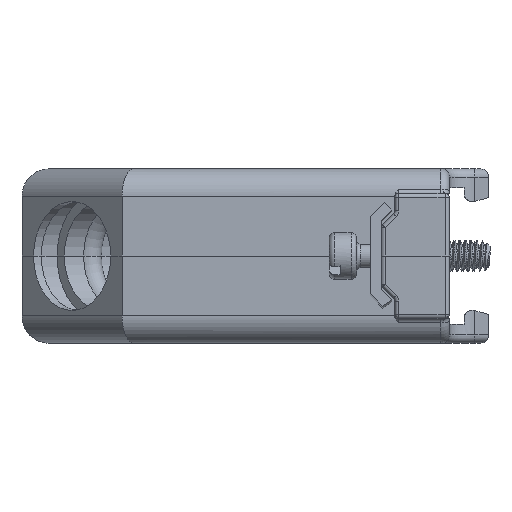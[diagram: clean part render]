
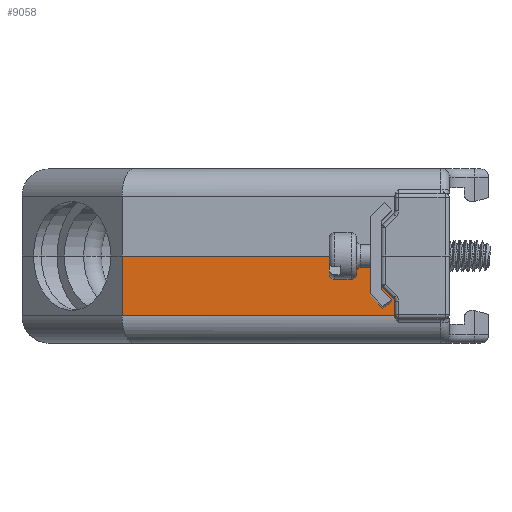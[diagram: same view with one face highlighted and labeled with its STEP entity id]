
A CAD part, left-side view. The second image highlights one B-rep face of the part: STEP entity #9058.
In plain terms, the highlighted planar face has unit normal (-1, 0, 0).
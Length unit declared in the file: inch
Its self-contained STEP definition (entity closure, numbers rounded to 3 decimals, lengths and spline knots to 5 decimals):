
#8087=CARTESIAN_POINT('',(-0.5525,-0.51153,-0.06));
#8088=VERTEX_POINT('',#8087);
#8102=CARTESIAN_POINT('',(-0.5525,0.4888,-0.06));
#8103=VERTEX_POINT('',#8102);
#8104=CARTESIAN_POINT('',(-0.5525,0.4888,-0.06));
#8105=DIRECTION('',(0.0,-1.0,0.0));
#8106=VECTOR('',#8105,1.00033);
#8107=LINE('',#8104,#8106);
#8108=EDGE_CURVE('',#8088,#8103,#8107,.F.);
#8600=CARTESIAN_POINT('',(-0.5525,-0.4615,0.05621));
#8601=VERTEX_POINT('',#8600);
#8602=CARTESIAN_POINT('',(-0.5525,-0.46589,0.04561));
#8603=VERTEX_POINT('',#8602);
#8604=CARTESIAN_POINT('',(-0.5525,-0.4765,0.05621));
#8605=DIRECTION('',(1.0,0.0,0.0));
#8606=DIRECTION('',(0.0,0.924,-0.383));
#8607=AXIS2_PLACEMENT_3D('',#8604,#8605,#8606);
#8608=CIRCLE('',#8607,0.015);
#8609=EDGE_CURVE('',#8601,#8603,#8608,.F.);
#8676=CARTESIAN_POINT('',(-0.5525,-0.5115,-0.00621));
#8677=VERTEX_POINT('',#8676);
#8678=CARTESIAN_POINT('',(-0.5525,-0.50711,0.00439));
#8679=VERTEX_POINT('',#8678);
#8680=CARTESIAN_POINT('',(-0.5525,-0.4965,-0.00621));
#8681=DIRECTION('',(-1.0,0.0,0.0));
#8682=DIRECTION('',(0.0,-0.924,0.383));
#8683=AXIS2_PLACEMENT_3D('',#8680,#8681,#8682);
#8684=CIRCLE('',#8683,0.015);
#8685=EDGE_CURVE('',#8677,#8679,#8684,.T.);
#8784=CARTESIAN_POINT('',(-0.5525,-0.5115,-0.05897));
#8785=VERTEX_POINT('',#8784);
#8793=CARTESIAN_POINT('',(-0.5525,-0.51153,-0.06));
#8794=CARTESIAN_POINT('',(-0.5525,-0.51151,-0.05965));
#8795=CARTESIAN_POINT('',(-0.5525,-0.5115,-0.0593));
#8796=CARTESIAN_POINT('',(-0.5525,-0.5115,-0.05897));
#8797=B_SPLINE_CURVE_WITH_KNOTS('',3,(#8793,#8794,#8795,#8796),.UNSPECIFIED.,.F.,.U.,(4,4),(0.18398,0.18653),.UNSPECIFIED.);
#8798=EDGE_CURVE('',#8088,#8785,#8797,.T.);
#9009=CARTESIAN_POINT('',(-0.5525,-0.5115,-0.05897));
#9010=DIRECTION('',(0.0,0.0,1.0));
#9011=VECTOR('',#9010,0.05276);
#9012=LINE('',#9009,#9011);
#9013=EDGE_CURVE('',#8785,#8677,#9012,.T.);
#9018=CARTESIAN_POINT('',(-0.5525,-0.7115,-0.16));
#9019=DIRECTION('',(-1.0,0.0,0.0));
#9020=DIRECTION('',(0.0,0.0,1.0));
#9021=AXIS2_PLACEMENT_3D('',#9018,#9019,#9020);
#9022=PLANE('',#9021);
#9023=ORIENTED_EDGE('',*,*,#8685,.T.);
#9024=CARTESIAN_POINT('',(-0.5525,-0.50711,0.00439));
#9025=DIRECTION('',(0.,0.707,0.707));
#9026=VECTOR('',#9025,0.05828);
#9027=LINE('',#9024,#9026);
#9028=EDGE_CURVE('',#8679,#8603,#9027,.T.);
#9029=ORIENTED_EDGE('',*,*,#9028,.T.);
#9030=ORIENTED_EDGE('',*,*,#8609,.F.);
#9031=CARTESIAN_POINT('',(-0.5525,-0.4615,0.16));
#9032=VERTEX_POINT('',#9031);
#9033=CARTESIAN_POINT('',(-0.5525,-0.4615,0.05621));
#9034=DIRECTION('',(0.0,0.0,1.0));
#9035=VECTOR('',#9034,0.10379);
#9036=LINE('',#9033,#9035);
#9037=EDGE_CURVE('',#8601,#9032,#9036,.T.);
#9038=ORIENTED_EDGE('',*,*,#9037,.T.);
#9039=CARTESIAN_POINT('',(-0.5525,0.4888,0.16));
#9040=VERTEX_POINT('',#9039);
#9041=CARTESIAN_POINT('',(-0.5525,-0.4615,0.16));
#9042=DIRECTION('',(0.0,1.0,0.0));
#9043=VECTOR('',#9042,0.9503);
#9044=LINE('',#9041,#9043);
#9045=EDGE_CURVE('',#9032,#9040,#9044,.T.);
#9046=ORIENTED_EDGE('',*,*,#9045,.T.);
#9047=CARTESIAN_POINT('',(-0.5525,0.4888,-0.06));
#9048=DIRECTION('',(0.0,0.0,1.0));
#9049=VECTOR('',#9048,0.22);
#9050=LINE('',#9047,#9049);
#9051=EDGE_CURVE('',#8103,#9040,#9050,.T.);
#9052=ORIENTED_EDGE('',*,*,#9051,.F.);
#9053=ORIENTED_EDGE('',*,*,#8108,.F.);
#9054=ORIENTED_EDGE('',*,*,#8798,.T.);
#9055=ORIENTED_EDGE('',*,*,#9013,.T.);
#9056=EDGE_LOOP('',(#9023,#9029,#9030,#9038,#9046,#9052,#9053,#9054,#9055));
#9057=FACE_OUTER_BOUND('',#9056,.T.);
#9058=ADVANCED_FACE('',(#9057),#9022,.T.);
